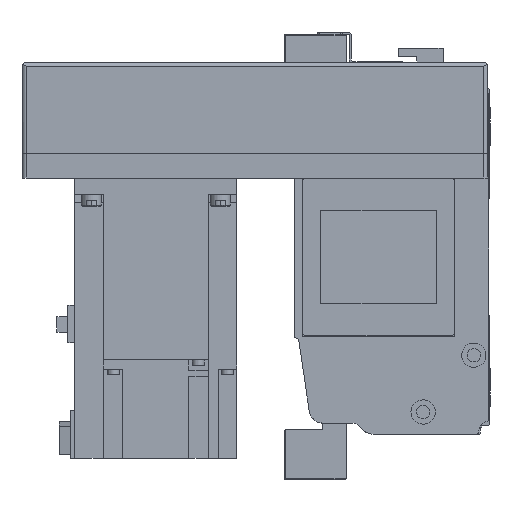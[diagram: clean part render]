
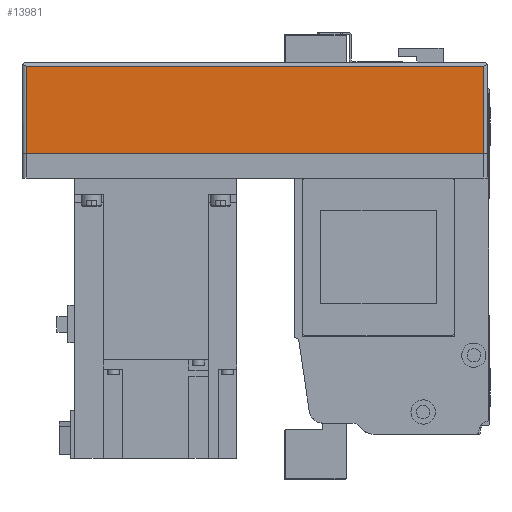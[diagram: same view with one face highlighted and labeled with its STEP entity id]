
A CAD part, left-side view. The second image highlights one B-rep face of the part: STEP entity #13981.
In plain terms, the highlighted planar face has unit normal (-1, 0, 0) as drawn and (0, 1, 0) by its records, which use the part's own axes.
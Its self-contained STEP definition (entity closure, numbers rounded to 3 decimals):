
#2522=ORIENTED_EDGE('',*,*,#5802,.F.);
#2523=ORIENTED_EDGE('',*,*,#5742,.T.);
#2524=ORIENTED_EDGE('',*,*,#5803,.F.);
#2525=ORIENTED_EDGE('',*,*,#5737,.F.);
#5737=EDGE_CURVE('',#7526,#7527,#8990,.T.);
#5742=EDGE_CURVE('',#7532,#7531,#8992,.T.);
#5802=EDGE_CURVE('',#7532,#7526,#9035,.T.);
#5803=EDGE_CURVE('',#7527,#7531,#9036,.T.);
#7526=VERTEX_POINT('',#21898);
#7527=VERTEX_POINT('',#21900);
#7531=VERTEX_POINT('',#21909);
#7532=VERTEX_POINT('',#21911);
#8990=LINE('',#21899,#10303);
#8992=LINE('',#21910,#10305);
#9035=LINE('',#22033,#10348);
#9036=LINE('',#22034,#10349);
#10303=VECTOR('',#17487,1000.);
#10305=VECTOR('',#17497,1000.);
#10348=VECTOR('',#17618,1000.);
#10349=VECTOR('',#17619,1000.);
#11456=EDGE_LOOP('',(#2522,#2523,#2524,#2525));
#12507=FACE_BOUND('',#11456,.T.);
#13390=PLANE('',#15026);
#13981=ADVANCED_FACE('',(#12507),#13390,.T.);
#15026=AXIS2_PLACEMENT_3D('',#22032,#17616,#17617);
#17487=DIRECTION('',(0.,0.,1.));
#17497=DIRECTION('',(0.,0.,1.));
#17616=DIRECTION('',(0.,1.,0.));
#17617=DIRECTION('',(0.,0.,1.));
#17618=DIRECTION('',(1.,0.,0.));
#17619=DIRECTION('',(-1.,0.,0.));
#21898=CARTESIAN_POINT('',(-2.,54.,-55.));
#21899=CARTESIAN_POINT('',(-2.,54.,-57.));
#21900=CARTESIAN_POINT('',(-2.,54.,-12.));
#21909=CARTESIAN_POINT('',(-228.,54.,-12.));
#21910=CARTESIAN_POINT('',(-228.,54.,-57.));
#21911=CARTESIAN_POINT('',(-228.,54.,-55.));
#22032=CARTESIAN_POINT('',(-2.,54.,-57.));
#22033=CARTESIAN_POINT('',(-230.,54.,-55.));
#22034=CARTESIAN_POINT('',(-2.,54.,-12.));
